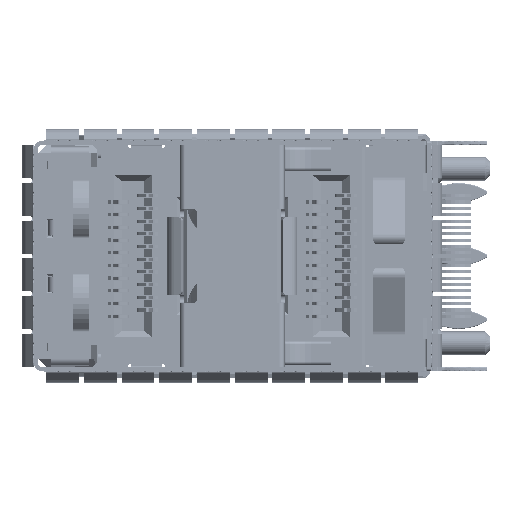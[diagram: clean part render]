
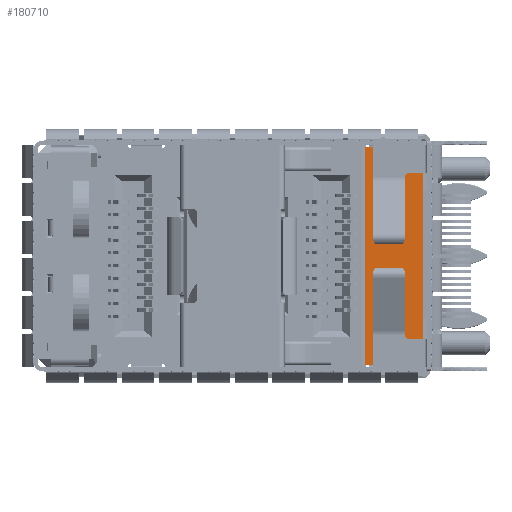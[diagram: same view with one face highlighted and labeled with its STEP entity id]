
A CAD part, left-side view. The second image highlights one B-rep face of the part: STEP entity #180710.
In plain terms, the highlighted planar face has unit normal (-1, 0, 0) as drawn and (0, 0, 1) by its records, which use the part's own axes.
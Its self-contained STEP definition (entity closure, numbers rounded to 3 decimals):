
#2258 = VERTEX_POINT ( 'NONE', #251306 ) ;
#18589 = ORIENTED_EDGE ( 'NONE', *, *, #266287, .T. ) ;
#18629 = ORIENTED_EDGE ( 'NONE', *, *, #266270, .T. ) ;
#18744 = ORIENTED_EDGE ( 'NONE', *, *, #222069, .F. ) ;
#18766 = ORIENTED_EDGE ( 'NONE', *, *, #221605, .F. ) ;
#18768 = ORIENTED_EDGE ( 'NONE', *, *, #266199, .T. ) ;
#18839 = ORIENTED_EDGE ( 'NONE', *, *, #266138, .F. ) ;
#18853 = ORIENTED_EDGE ( 'NONE', *, *, #266275, .F. ) ;
#18863 = ORIENTED_EDGE ( 'NONE', *, *, #266181, .F. ) ;
#37299 = CARTESIAN_POINT ( 'NONE',  ( 5.37, 2.5, -9.65 ) ) ;
#37432 = DIRECTION ( 'NONE',  ( 0., -1., 0. ) ) ;
#47485 = LINE ( 'NONE', #49743, #47497 ) ;
#47497 = VECTOR ( 'NONE', #49740, 1000. ) ;
#47500 = LINE ( 'NONE', #49715, #47562 ) ;
#47543 = VECTOR ( 'NONE', #49790, 1000. ) ;
#47562 = VECTOR ( 'NONE', #49679, 1000. ) ;
#47564 = LINE ( 'NONE', #49684, #47543 ) ;
#47608 = VECTOR ( 'NONE', #49842, 1000. ) ;
#47618 = VECTOR ( 'NONE', #49883, 1000. ) ;
#47632 = LINE ( 'NONE', #49831, #47666 ) ;
#47633 = LINE ( 'NONE', #49856, #47618 ) ;
#47662 = LINE ( 'NONE', #49875, #47608 ) ;
#47666 = VECTOR ( 'NONE', #49894, 1000. ) ;
#49679 = DIRECTION ( 'NONE',  ( 0., -1., 0. ) ) ;
#49684 = CARTESIAN_POINT ( 'NONE',  ( 5.37, 2.5, -9.65 ) ) ;
#49715 = CARTESIAN_POINT ( 'NONE',  ( 6.87, 4.8, -9.65 ) ) ;
#49740 = DIRECTION ( 'NONE',  ( 1., 0., 0. ) ) ;
#49743 = CARTESIAN_POINT ( 'NONE',  ( -6.98, 1., -9.65 ) ) ;
#49790 = DIRECTION ( 'NONE',  ( -1., 0., 0. ) ) ;
#49831 = CARTESIAN_POINT ( 'NONE',  ( -5.37, 2.5, -9.65 ) ) ;
#49842 = DIRECTION ( 'NONE',  ( -1., 0., 0. ) ) ;
#49856 = CARTESIAN_POINT ( 'NONE',  ( 0., 4.625, -9.65 ) ) ;
#49875 = CARTESIAN_POINT ( 'NONE',  ( -5.37, 2.5, -9.65 ) ) ;
#49883 = DIRECTION ( 'NONE',  ( -1., 0., 0. ) ) ;
#49894 = DIRECTION ( 'NONE',  ( 0., -1., 0. ) ) ;
#72717 = DIRECTION ( 'NONE',  ( 0., 1., 0. ) ) ;
#72738 = CARTESIAN_POINT ( 'NONE',  ( -6.87, 4.8, -9.65 ) ) ;
#76464 = LINE ( 'NONE', #72738, #76519 ) ;
#76519 = VECTOR ( 'NONE', #72717, 1000. ) ;
#85185 = VECTOR ( 'NONE', #37432, 1000. ) ;
#85201 = LINE ( 'NONE', #37299, #85185 ) ;
#93545 = VERTEX_POINT ( 'NONE', #154044 ) ;
#93549 = VERTEX_POINT ( 'NONE', #154037 ) ;
#93587 = VERTEX_POINT ( 'NONE', #154111 ) ;
#93706 = VERTEX_POINT ( 'NONE', #154221 ) ;
#145859 = VERTEX_POINT ( 'NONE', #280368 ) ;
#146407 = VERTEX_POINT ( 'NONE', #280777 ) ;
#147999 = CARTESIAN_POINT ( 'NONE',  ( -6.87, 2.5, -9.65 ) ) ;
#154037 = CARTESIAN_POINT ( 'NONE',  ( -5.37, 1., -9.65 ) ) ;
#154044 = CARTESIAN_POINT ( 'NONE',  ( 6.87, 2.5, -9.65 ) ) ;
#154111 = CARTESIAN_POINT ( 'NONE',  ( 6.87, 4.625, -9.65 ) ) ;
#154221 = CARTESIAN_POINT ( 'NONE',  ( -5.37, 2.5, -9.65 ) ) ;
#180710 = ADVANCED_FACE ( 'NONE', ( #198668 ), #191979, .T. ) ;
#187407 = VERTEX_POINT ( 'NONE', #147999 ) ;
#191979 = PLANE ( 'NONE',  #192491 ) ;
#191983 = DIRECTION ( 'NONE',  ( 0., 0., 1. ) ) ;
#192041 = CARTESIAN_POINT ( 'NONE',  ( 0., 0., -9.65 ) ) ;
#192052 = DIRECTION ( 'NONE',  ( 1., 0., 0. ) ) ;
#192491 = AXIS2_PLACEMENT_3D ( 'NONE', #192041, #191983, #192052 ) ;
#198668 = FACE_OUTER_BOUND ( 'NONE', #255340, .T. ) ;
#221605 = EDGE_CURVE ( 'NONE', #145859, #146407, #85201, .T. ) ;
#222069 = EDGE_CURVE ( 'NONE', #187407, #2258, #76464, .T. ) ;
#251306 = CARTESIAN_POINT ( 'NONE',  ( -6.87, 4.625, -9.65 ) ) ;
#255340 = EDGE_LOOP ( 'NONE', ( #18629, #18768, #18766, #18863, #18839, #18589, #18744, #18853 ) ) ;
#266138 = EDGE_CURVE ( 'NONE', #93587, #93545, #47500, .T. ) ;
#266181 = EDGE_CURVE ( 'NONE', #93545, #145859, #47564, .T. ) ;
#266199 = EDGE_CURVE ( 'NONE', #93549, #146407, #47485, .T. ) ;
#266270 = EDGE_CURVE ( 'NONE', #93706, #93549, #47632, .T. ) ;
#266275 = EDGE_CURVE ( 'NONE', #93706, #187407, #47662, .T. ) ;
#266287 = EDGE_CURVE ( 'NONE', #93587, #2258, #47633, .T. ) ;
#280368 = CARTESIAN_POINT ( 'NONE',  ( 5.37, 2.5, -9.65 ) ) ;
#280777 = CARTESIAN_POINT ( 'NONE',  ( 5.37, 1., -9.65 ) ) ;
